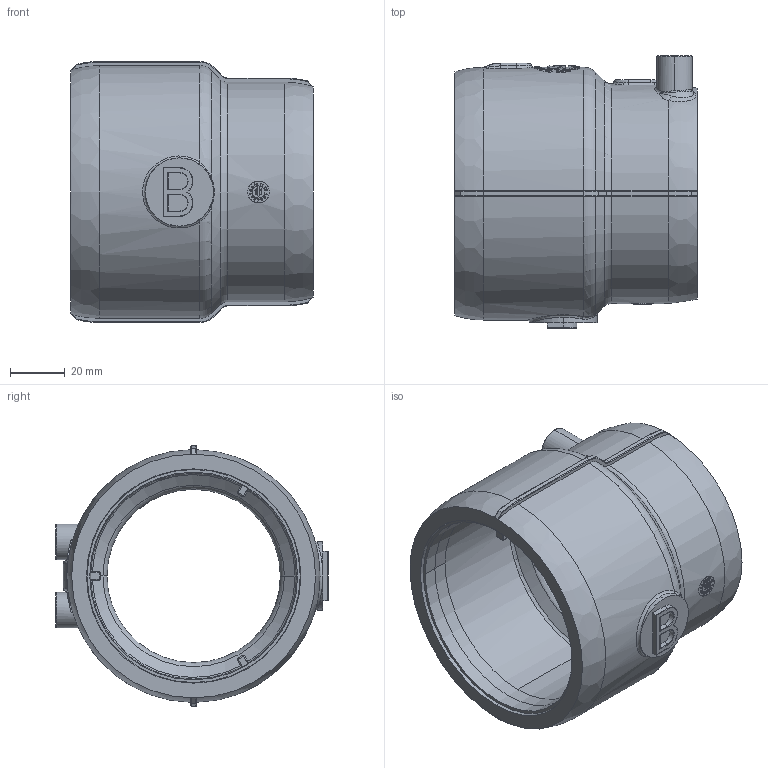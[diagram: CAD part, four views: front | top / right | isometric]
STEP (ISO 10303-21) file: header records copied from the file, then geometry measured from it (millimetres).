
FILE_DESCRIPTION (( 'STEP AP203' ), '1' );
FILE_NAME ('KP_T75-63B.STEP', '2012-01-18T10:40:42', ( '' ), ( '' ), 'SwSTEP 2.0', 'SolidWorks 2012', '' );
FILE_SCHEMA (( 'CONFIG_CONTROL_DESIGN' ));
Length unit declared in the file: millimetre
Products named in the file (1): KP_T75-63B
Bounding box: 88.74 x 99.82 x 95.6 mm (x, y, z)
Volume: 194641.4 mm3; surface area: 51564.4 mm2
Topology: 1 solids, 6 shells, 785 faces, 1982 edges, 1268 vertices
Faces by surface type: plane 342, bspline 202, cylinder 147, cone 42, torus 40, sphere 12
Entity records: 34435 total; most frequent: CARTESIAN_POINT 17789, ORIENTED_EDGE 3952, DIRECTION 2683, EDGE_CURVE 1976, VERTEX_POINT 1266, AXIS2_PLACEMENT_3D 927, EDGE_LOOP 860, LINE 829
